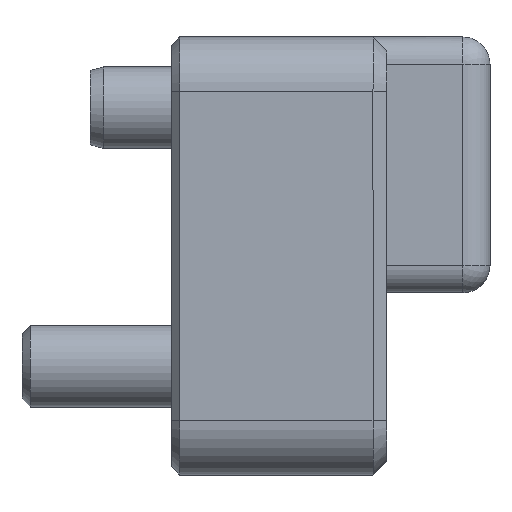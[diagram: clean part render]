
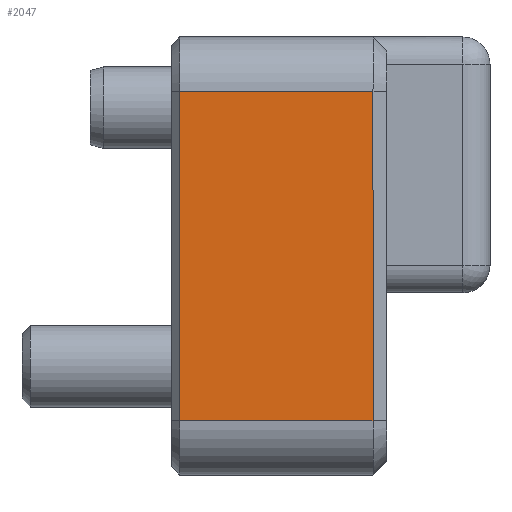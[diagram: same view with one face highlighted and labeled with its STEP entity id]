
A CAD part, left-side view. The second image highlights one B-rep face of the part: STEP entity #2047.
In plain terms, the highlighted planar face has unit normal (-1, 0, 0).
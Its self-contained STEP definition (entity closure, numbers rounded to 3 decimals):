
#136=LINE('',#3274,#293);
#167=LINE('',#3377,#324);
#207=LINE('',#3463,#364);
#208=LINE('',#3465,#365);
#293=VECTOR('',#2615,10.);
#324=VECTOR('',#2718,10.);
#364=VECTOR('',#2804,10.);
#365=VECTOR('',#2807,10.);
#507=FACE_OUTER_BOUND('',#638,.T.);
#638=EDGE_LOOP('',(#1628,#1629,#1630,#1631));
#870=VERTEX_POINT('',#3266);
#872=VERTEX_POINT('',#3272);
#905=VERTEX_POINT('',#3367);
#907=VERTEX_POINT('',#3373);
#1084=EDGE_CURVE('',#872,#870,#136,.T.);
#1135=EDGE_CURVE('',#905,#907,#167,.T.);
#1181=EDGE_CURVE('',#907,#872,#207,.T.);
#1182=EDGE_CURVE('',#870,#905,#208,.T.);
#1628=ORIENTED_EDGE('',*,*,#1084,.F.);
#1629=ORIENTED_EDGE('',*,*,#1181,.F.);
#1630=ORIENTED_EDGE('',*,*,#1135,.F.);
#1631=ORIENTED_EDGE('',*,*,#1182,.F.);
#1825=PLANE('',#2277);
#2047=ADVANCED_FACE('',(#507),#1825,.T.);
#2277=AXIS2_PLACEMENT_3D('',#3464,#2805,#2806);
#2615=DIRECTION('',(0.,0.,-1.));
#2718=DIRECTION('',(0.,0.,1.));
#2804=DIRECTION('',(0.,-1.,0.));
#2805=DIRECTION('center_axis',(-1.,0.,0.));
#2806=DIRECTION('ref_axis',(0.,-1.,0.));
#2807=DIRECTION('',(0.,1.,0.));
#3266=CARTESIAN_POINT('',(-15.5,-3.9,2.));
#3272=CARTESIAN_POINT('',(-15.5,-3.9,14.1));
#3274=CARTESIAN_POINT('',(-15.5,-3.9,0.));
#3367=CARTESIAN_POINT('',(-15.5,3.2,2.));
#3373=CARTESIAN_POINT('',(-15.5,3.2,14.1));
#3377=CARTESIAN_POINT('',(-15.5,3.2,0.));
#3463=CARTESIAN_POINT('',(-15.5,0.616,14.1));
#3464=CARTESIAN_POINT('Origin',(-15.5,3.5,0.));
#3465=CARTESIAN_POINT('',(-15.5,0.616,2.));
